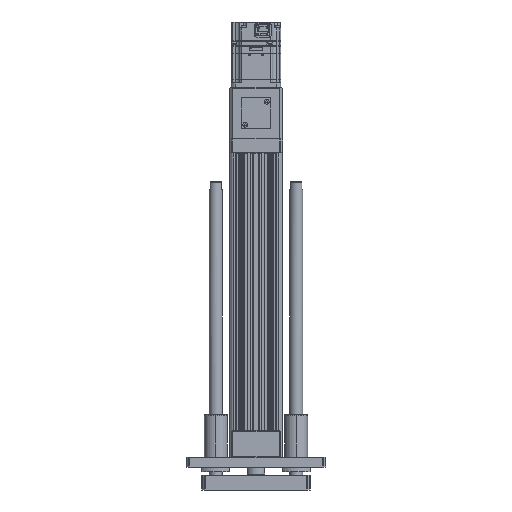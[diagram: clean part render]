
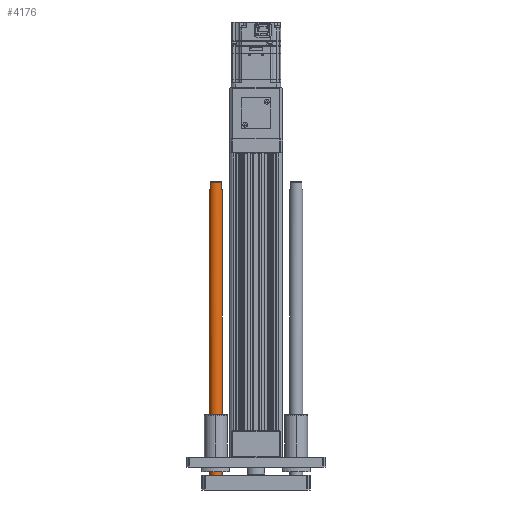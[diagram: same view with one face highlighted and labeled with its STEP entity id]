
A CAD part, left-side view. The second image highlights one B-rep face of the part: STEP entity #4176.
In plain terms, the highlighted cylindrical face has radius 8 mm (diameter 16 mm), a partial arc.
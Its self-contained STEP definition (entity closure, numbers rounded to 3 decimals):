
#222 = CARTESIAN_POINT ( 'NONE',  ( -49., 0., 357.5 ) ) ;
#1148 = CYLINDRICAL_SURFACE ( 'NONE', #26523, 8. ) ;
#1235 = ORIENTED_EDGE ( 'NONE', *, *, #13558, .F. ) ;
#1936 = CARTESIAN_POINT ( 'NONE',  ( -49., 0., 358. ) ) ;
#2166 = CIRCLE ( 'NONE', #3090, 8. ) ;
#2371 = AXIS2_PLACEMENT_3D ( 'NONE', #28859, #7950, #32431 ) ;
#2681 = VERTEX_POINT ( 'NONE', #33407 ) ;
#3090 = AXIS2_PLACEMENT_3D ( 'NONE', #9447, #33904, #12943 ) ;
#3722 = DIRECTION ( 'NONE',  ( 1., 0., 0. ) ) ;
#3802 = ORIENTED_EDGE ( 'NONE', *, *, #31579, .T. ) ;
#4176 = ADVANCED_FACE ( 'NONE', ( #38356 ), #1148, .T. ) ;
#5766 = VECTOR ( 'NONE', #16835, 1000. ) ;
#5900 = CARTESIAN_POINT ( 'NONE',  ( -42., -3.873, 357.5 ) ) ;
#6129 = ORIENTED_EDGE ( 'NONE', *, *, #7227, .T. ) ;
#6434 = DIRECTION ( 'NONE',  ( 0., 0., -1. ) ) ;
#6706 = LINE ( 'NONE', #16632, #32423 ) ;
#7227 = EDGE_CURVE ( 'NONE', #37472, #44617, #6706, .T. ) ;
#7950 = DIRECTION ( 'NONE',  ( 0., 0., 1. ) ) ;
#8263 = VERTEX_POINT ( 'NONE', #39158 ) ;
#9362 = VECTOR ( 'NONE', #11164, 1000. ) ;
#9447 = CARTESIAN_POINT ( 'NONE',  ( -49., 0., 0. ) ) ;
#9820 = CARTESIAN_POINT ( 'NONE',  ( -41., 0., 0. ) ) ;
#11164 = DIRECTION ( 'NONE',  ( 0., 0., 1. ) ) ;
#12276 = ORIENTED_EDGE ( 'NONE', *, *, #32277, .F. ) ;
#12443 = DIRECTION ( 'NONE',  ( 0., 0., -1. ) ) ;
#12907 = ORIENTED_EDGE ( 'NONE', *, *, #35275, .F. ) ;
#12943 = DIRECTION ( 'NONE',  ( 1., 0., 0. ) ) ;
#13558 = EDGE_CURVE ( 'NONE', #41691, #41803, #26866, .T. ) ;
#14251 = EDGE_CURVE ( 'NONE', #17544, #41691, #43794, .T. ) ;
#16632 = CARTESIAN_POINT ( 'NONE',  ( -57., 0., 358. ) ) ;
#16835 = DIRECTION ( 'NONE',  ( 0., 0., -1. ) ) ;
#16924 = VECTOR ( 'NONE', #28208, 1000. ) ;
#17544 = VERTEX_POINT ( 'NONE', #5900 ) ;
#18322 = CARTESIAN_POINT ( 'NONE',  ( -49., 0., 348. ) ) ;
#20774 = EDGE_CURVE ( 'NONE', #44617, #28038, #2166, .T. ) ;
#21171 = CARTESIAN_POINT ( 'NONE',  ( -42., -3.873, 358. ) ) ;
#21848 = DIRECTION ( 'NONE',  ( 1., 0., 0. ) ) ;
#22107 = CARTESIAN_POINT ( 'NONE',  ( -42., -3.873, 348. ) ) ;
#22277 = CARTESIAN_POINT ( 'NONE',  ( -57., 0., 348. ) ) ;
#22844 = DIRECTION ( 'NONE',  ( -1., 0., 0. ) ) ;
#23954 = EDGE_LOOP ( 'NONE', ( #32613, #1235, #45366, #3802, #12276, #12907, #6129, #43339 ) ) ;
#24650 = DIRECTION ( 'NONE',  ( 0., 0., -1. ) ) ;
#24665 = CARTESIAN_POINT ( 'NONE',  ( -57., 0., 0. ) ) ;
#26523 = AXIS2_PLACEMENT_3D ( 'NONE', #1936, #12443, #22844 ) ;
#26853 = AXIS2_PLACEMENT_3D ( 'NONE', #18322, #42867, #21848 ) ;
#26866 = CIRCLE ( 'NONE', #26853, 8. ) ;
#27477 = CIRCLE ( 'NONE', #27992, 8. ) ;
#27657 = CIRCLE ( 'NONE', #2371, 8. ) ;
#27992 = AXIS2_PLACEMENT_3D ( 'NONE', #222, #24650, #3722 ) ;
#28038 = VERTEX_POINT ( 'NONE', #9820 ) ;
#28208 = DIRECTION ( 'NONE',  ( 0., 0., -1. ) ) ;
#28859 = CARTESIAN_POINT ( 'NONE',  ( -49., 0., 348. ) ) ;
#31579 = EDGE_CURVE ( 'NONE', #17544, #8263, #27477, .T. ) ;
#32107 = CARTESIAN_POINT ( 'NONE',  ( -56., -3.873, 358. ) ) ;
#32277 = EDGE_CURVE ( 'NONE', #2681, #8263, #36196, .T. ) ;
#32423 = VECTOR ( 'NONE', #6434, 1000. ) ;
#32431 = DIRECTION ( 'NONE',  ( 1., 0., 0. ) ) ;
#32580 = LINE ( 'NONE', #41386, #5766 ) ;
#32613 = ORIENTED_EDGE ( 'NONE', *, *, #41953, .F. ) ;
#33407 = CARTESIAN_POINT ( 'NONE',  ( -56., -3.873, 348. ) ) ;
#33904 = DIRECTION ( 'NONE',  ( 0., 0., 1. ) ) ;
#35275 = EDGE_CURVE ( 'NONE', #37472, #2681, #27657, .T. ) ;
#36196 = LINE ( 'NONE', #32107, #9362 ) ;
#37472 = VERTEX_POINT ( 'NONE', #22277 ) ;
#38356 = FACE_OUTER_BOUND ( 'NONE', #23954, .T. ) ;
#39158 = CARTESIAN_POINT ( 'NONE',  ( -56., -3.873, 357.5 ) ) ;
#41386 = CARTESIAN_POINT ( 'NONE',  ( -41., 0., 358. ) ) ;
#41691 = VERTEX_POINT ( 'NONE', #22107 ) ;
#41803 = VERTEX_POINT ( 'NONE', #43825 ) ;
#41953 = EDGE_CURVE ( 'NONE', #41803, #28038, #32580, .T. ) ;
#42867 = DIRECTION ( 'NONE',  ( 0., 0., 1. ) ) ;
#43339 = ORIENTED_EDGE ( 'NONE', *, *, #20774, .T. ) ;
#43794 = LINE ( 'NONE', #21171, #16924 ) ;
#43825 = CARTESIAN_POINT ( 'NONE',  ( -41., 0., 348. ) ) ;
#44617 = VERTEX_POINT ( 'NONE', #24665 ) ;
#45366 = ORIENTED_EDGE ( 'NONE', *, *, #14251, .F. ) ;
